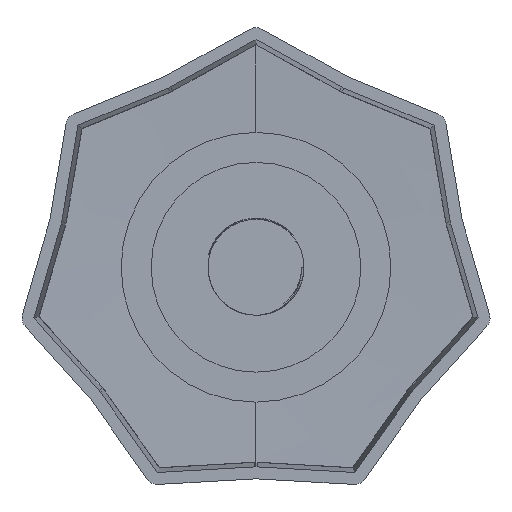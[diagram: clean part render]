
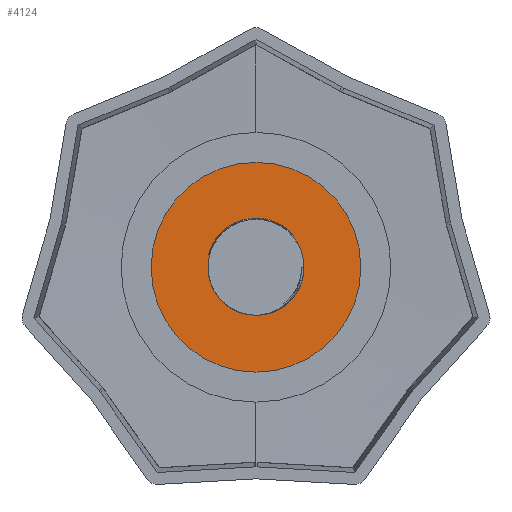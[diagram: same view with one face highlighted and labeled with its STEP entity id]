
A CAD part, front view. The second image highlights one B-rep face of the part: STEP entity #4124.
In plain terms, the highlighted planar face has unit normal (0, -1, 0).
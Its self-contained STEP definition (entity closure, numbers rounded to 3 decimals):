
#168 = CIRCLE ( 'NONE', #7211, 8. ) ;
#287 = FACE_OUTER_BOUND ( 'NONE', #1085, .T. ) ;
#304 = EDGE_CURVE ( 'NONE', #6384, #3821, #5794, .T. ) ;
#560 = CARTESIAN_POINT ( 'NONE',  ( -6.269, -8., 5.123 ) ) ;
#588 = CARTESIAN_POINT ( 'NONE',  ( 6.282, -8., 5.271 ) ) ;
#824 = CARTESIAN_POINT ( 'NONE',  ( 0., -8., 17.5 ) ) ;
#967 = DIRECTION ( 'NONE',  ( 0., -1., 0. ) ) ;
#976 = CARTESIAN_POINT ( 'NONE',  ( 6.128, -8., 5.142 ) ) ;
#983 = EDGE_CURVE ( 'NONE', #4780, #4400, #5464, .T. ) ;
#1085 = EDGE_LOOP ( 'NONE', ( #4373, #7898 ) ) ;
#1109 = AXIS2_PLACEMENT_3D ( 'NONE', #5364, #1382, #6036 ) ;
#1239 = CARTESIAN_POINT ( 'NONE',  ( -6.849, -8., 4.36 ) ) ;
#1382 = DIRECTION ( 'NONE',  ( 0., -1., 0. ) ) ;
#1409 = CARTESIAN_POINT ( 'NONE',  ( 0., -8., 0. ) ) ;
#1439 = LINE ( 'NONE', #3776, #4756 ) ;
#1453 = CARTESIAN_POINT ( 'NONE',  ( 0., -8., 0. ) ) ;
#1515 = B_SPLINE_CURVE_WITH_KNOTS ( 'NONE', 3,
 ( #6521, #1869, #7828, #3862, #8478, #4529, #560, #5213, #1239, #5881, #1900, #6548, #2557, #7220 ),
 .UNSPECIFIED., .F., .F.,
 ( 4, 2, 2, 2, 2, 2, 4 ),
 ( 0.011, 0.012, 0.013, 0.014, 0.015, 0.016, 0.017 ),
 .UNSPECIFIED. ) ;
#1869 = CARTESIAN_POINT ( 'NONE',  ( -4.632, -8., 6.536 ) ) ;
#1900 = CARTESIAN_POINT ( 'NONE',  ( -7.233, -8., 3.744 ) ) ;
#2073 = DIRECTION ( 'NONE',  ( 0., 0., -1. ) ) ;
#2116 = DIRECTION ( 'NONE',  ( 0., 0., -1. ) ) ;
#2210 = ORIENTED_EDGE ( 'NONE', *, *, #5926, .F. ) ;
#2227 = CARTESIAN_POINT ( 'NONE',  ( 0., -8., 0. ) ) ;
#2256 = VERTEX_POINT ( 'NONE', #7044 ) ;
#2469 = CIRCLE ( 'NONE', #2743, 17.5 ) ;
#2557 = CARTESIAN_POINT ( 'NONE',  ( -7.755, -8., 2.657 ) ) ;
#2743 = AXIS2_PLACEMENT_3D ( 'NONE', #1453, #6109, #2116 ) ;
#2760 = AXIS2_PLACEMENT_3D ( 'NONE', #1409, #6066, #2073 ) ;
#2786 = EDGE_CURVE ( 'NONE', #2256, #2908, #2469, .T. ) ;
#2796 = CARTESIAN_POINT ( 'NONE',  ( 0., -8., -8. ) ) ;
#2908 = VERTEX_POINT ( 'NONE', #824 ) ;
#3138 = CARTESIAN_POINT ( 'NONE',  ( -4.429, -8., 6.662 ) ) ;
#3184 = EDGE_CURVE ( 'NONE', #3821, #8481, #1439, .T. ) ;
#3497 = DIRECTION ( 'NONE',  ( 0., -1., 0. ) ) ;
#3776 = CARTESIAN_POINT ( 'NONE',  ( 0., -8., 0. ) ) ;
#3798 = DIRECTION ( 'NONE',  ( -0.766, 0., -0.643 ) ) ;
#3821 = VERTEX_POINT ( 'NONE', #588 ) ;
#3832 = CARTESIAN_POINT ( 'NONE',  ( 0., -8., 0. ) ) ;
#3862 = CARTESIAN_POINT ( 'NONE',  ( -5.216, -8., 6.113 ) ) ;
#4124 = ADVANCED_FACE ( 'NONE', ( #287, #5808 ), #4934, .T. ) ;
#4125 = EDGE_LOOP ( 'NONE', ( #7458, #7123, #2210, #7083, #7553 ) ) ;
#4373 = ORIENTED_EDGE ( 'NONE', *, *, #7738, .T. ) ;
#4400 = VERTEX_POINT ( 'NONE', #2796 ) ;
#4500 = DIRECTION ( 'NONE',  ( 0., 0., -1. ) ) ;
#4529 = CARTESIAN_POINT ( 'NONE',  ( -5.942, -8., 5.474 ) ) ;
#4756 = VECTOR ( 'NONE', #3798, 1000. ) ;
#4780 = VERTEX_POINT ( 'NONE', #3138 ) ;
#4934 = PLANE ( 'NONE',  #6115 ) ;
#5213 = CARTESIAN_POINT ( 'NONE',  ( -6.71, -8., 4.556 ) ) ;
#5364 = CARTESIAN_POINT ( 'NONE',  ( 0., -8., 0. ) ) ;
#5464 = CIRCLE ( 'NONE', #1109, 8. ) ;
#5617 = DIRECTION ( 'NONE',  ( 0., 0., -1. ) ) ;
#5794 = CIRCLE ( 'NONE', #2760, 8.2 ) ;
#5808 = FACE_BOUND ( 'NONE', #4125, .T. ) ;
#5881 = CARTESIAN_POINT ( 'NONE',  ( -7.111, -8., 3.954 ) ) ;
#5926 = EDGE_CURVE ( 'NONE', #4400, #8481, #168, .T. ) ;
#6036 = DIRECTION ( 'NONE',  ( 0., 0., -1. ) ) ;
#6066 = DIRECTION ( 'NONE',  ( 0., 1., 0. ) ) ;
#6109 = DIRECTION ( 'NONE',  ( 0., -1., 0. ) ) ;
#6115 = AXIS2_PLACEMENT_3D ( 'NONE', #2227, #967, #5617 ) ;
#6384 = VERTEX_POINT ( 'NONE', #7396 ) ;
#6521 = CARTESIAN_POINT ( 'NONE',  ( -4.429, -8., 6.662 ) ) ;
#6548 = CARTESIAN_POINT ( 'NONE',  ( -7.57, -8., 3.103 ) ) ;
#6780 = CIRCLE ( 'NONE', #7278, 17.5 ) ;
#6818 = EDGE_CURVE ( 'NONE', #4780, #6384, #1515, .T. ) ;
#7044 = CARTESIAN_POINT ( 'NONE',  ( 0., -8., -17.5 ) ) ;
#7083 = ORIENTED_EDGE ( 'NONE', *, *, #983, .F. ) ;
#7123 = ORIENTED_EDGE ( 'NONE', *, *, #3184, .T. ) ;
#7211 = AXIS2_PLACEMENT_3D ( 'NONE', #7466, #3497, #8113 ) ;
#7220 = CARTESIAN_POINT ( 'NONE',  ( -7.901, -8., 2.194 ) ) ;
#7278 = AXIS2_PLACEMENT_3D ( 'NONE', #3832, #8451, #4500 ) ;
#7396 = CARTESIAN_POINT ( 'NONE',  ( -7.901, -8., 2.194 ) ) ;
#7458 = ORIENTED_EDGE ( 'NONE', *, *, #304, .T. ) ;
#7466 = CARTESIAN_POINT ( 'NONE',  ( 0., -8., 0. ) ) ;
#7553 = ORIENTED_EDGE ( 'NONE', *, *, #6818, .T. ) ;
#7738 = EDGE_CURVE ( 'NONE', #2908, #2256, #6780, .T. ) ;
#7828 = CARTESIAN_POINT ( 'NONE',  ( -4.83, -8., 6.401 ) ) ;
#7898 = ORIENTED_EDGE ( 'NONE', *, *, #2786, .T. ) ;
#8113 = DIRECTION ( 'NONE',  ( 0., 0., -1. ) ) ;
#8451 = DIRECTION ( 'NONE',  ( 0., -1., 0. ) ) ;
#8478 = CARTESIAN_POINT ( 'NONE',  ( -5.404, -8., 5.958 ) ) ;
#8481 = VERTEX_POINT ( 'NONE', #976 ) ;
